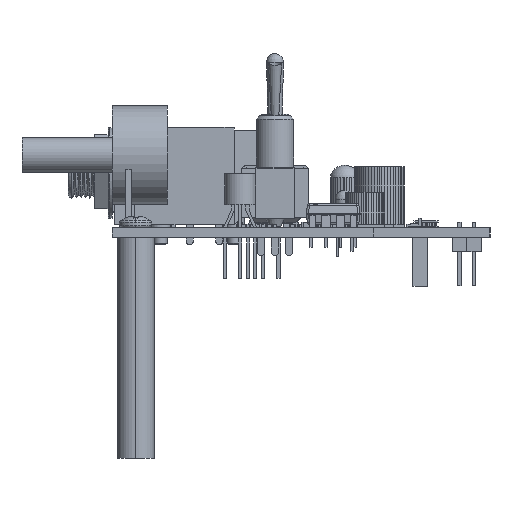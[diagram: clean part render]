
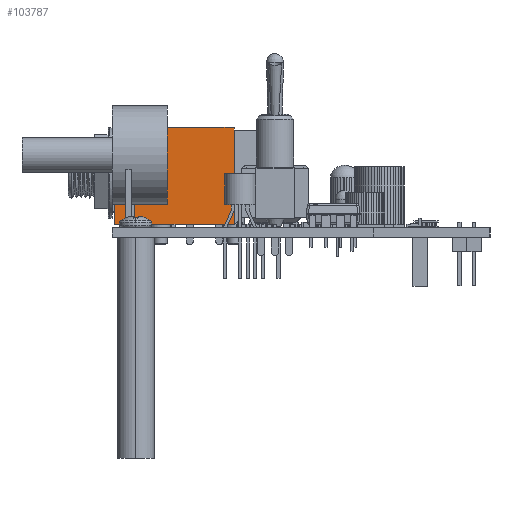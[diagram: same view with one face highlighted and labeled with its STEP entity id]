
A CAD part, front view. The second image highlights one B-rep face of the part: STEP entity #103787.
In plain terms, the highlighted planar face has unit normal (0, -1, 0).
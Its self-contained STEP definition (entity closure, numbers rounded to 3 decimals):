
#100980 = PLANE('',#100981);
#100981 = AXIS2_PLACEMENT_3D('',#100982,#100983,#100984);
#100982 = CARTESIAN_POINT('',(0.,0.,0.632));
#100983 = DIRECTION('',(0.,0.,1.));
#100984 = DIRECTION('',(1.,0.,0.));
#102193 = VERTEX_POINT('',#102194);
#102194 = CARTESIAN_POINT('',(10.312,-7.874,0.632));
#102220 = EDGE_CURVE('',#102221,#102193,#102223,.T.);
#102221 = VERTEX_POINT('',#102222);
#102222 = CARTESIAN_POINT('',(-10.312,-7.874,0.632));
#102223 = SURFACE_CURVE('',#102224,(#102228,#102235),.PCURVE_S1.);
#102224 = LINE('',#102225,#102226);
#102225 = CARTESIAN_POINT('',(-10.312,-7.874,0.632));
#102226 = VECTOR('',#102227,1.);
#102227 = DIRECTION('',(1.,0.,0.));
#102228 = PCURVE('',#100980,#102229);
#102229 = DEFINITIONAL_REPRESENTATION('',(#102230),#102234);
#102230 = LINE('',#102231,#102232);
#102231 = CARTESIAN_POINT('',(-10.312,-7.874));
#102232 = VECTOR('',#102233,1.);
#102233 = DIRECTION('',(1.,0.));
#102234 = ( GEOMETRIC_REPRESENTATION_CONTEXT(2) 
PARAMETRIC_REPRESENTATION_CONTEXT() REPRESENTATION_CONTEXT('2D SPACE',''
  ) );
#102235 = PCURVE('',#102236,#102241);
#102236 = PLANE('',#102237);
#102237 = AXIS2_PLACEMENT_3D('',#102238,#102239,#102240);
#102238 = CARTESIAN_POINT('',(0.,-7.874,0.632));
#102239 = DIRECTION('',(0.,-1.,0.));
#102240 = DIRECTION('',(0.,0.,-1.));
#102241 = DEFINITIONAL_REPRESENTATION('',(#102242),#102246);
#102242 = LINE('',#102243,#102244);
#102243 = CARTESIAN_POINT('',(0.,-10.312));
#102244 = VECTOR('',#102245,1.);
#102245 = DIRECTION('',(0.,1.));
#102246 = ( GEOMETRIC_REPRESENTATION_CONTEXT(2) 
PARAMETRIC_REPRESENTATION_CONTEXT() REPRESENTATION_CONTEXT('2D SPACE',''
  ) );
#102264 = PLANE('',#102265);
#102265 = AXIS2_PLACEMENT_3D('',#102266,#102267,#102268);
#102266 = CARTESIAN_POINT('',(-10.312,0.,0.632));
#102267 = DIRECTION('',(-1.,0.,0.));
#102268 = DIRECTION('',(0.,0.,-1.));
#103622 = PLANE('',#103623);
#103623 = AXIS2_PLACEMENT_3D('',#103624,#103625,#103626);
#103624 = CARTESIAN_POINT('',(12.294,-5.893,4.671));
#103625 = DIRECTION('',(0.707,-0.707,
    0.));
#103626 = DIRECTION('',(-0.707,-0.707,0.));
#103641 = VERTEX_POINT('',#103642);
#103642 = CARTESIAN_POINT('',(10.312,-7.874,16.786));
#103663 = EDGE_CURVE('',#103641,#102193,#103664,.T.);
#103664 = SURFACE_CURVE('',#103665,(#103669,#103676),.PCURVE_S1.);
#103665 = LINE('',#103666,#103667);
#103666 = CARTESIAN_POINT('',(10.312,-7.874,4.671));
#103667 = VECTOR('',#103668,1.);
#103668 = DIRECTION('',(0.,0.,-1.));
#103669 = PCURVE('',#103622,#103670);
#103670 = DEFINITIONAL_REPRESENTATION('',(#103671),#103675);
#103671 = LINE('',#103672,#103673);
#103672 = CARTESIAN_POINT('',(2.802,0.));
#103673 = VECTOR('',#103674,1.);
#103674 = DIRECTION('',(0.,1.));
#103675 = ( GEOMETRIC_REPRESENTATION_CONTEXT(2) 
PARAMETRIC_REPRESENTATION_CONTEXT() REPRESENTATION_CONTEXT('2D SPACE',''
  ) );
#103676 = PCURVE('',#102236,#103677);
#103677 = DEFINITIONAL_REPRESENTATION('',(#103678),#103682);
#103678 = LINE('',#103679,#103680);
#103679 = CARTESIAN_POINT('',(-4.039,10.312));
#103680 = VECTOR('',#103681,1.);
#103681 = DIRECTION('',(1.,0.));
#103682 = ( GEOMETRIC_REPRESENTATION_CONTEXT(2) 
PARAMETRIC_REPRESENTATION_CONTEXT() REPRESENTATION_CONTEXT('2D SPACE',''
  ) );
#103750 = PLANE('',#103751);
#103751 = AXIS2_PLACEMENT_3D('',#103752,#103753,#103754);
#103752 = CARTESIAN_POINT('',(0.,0.,17.272));
#103753 = DIRECTION('',(0.,0.,1.));
#103754 = DIRECTION('',(1.,0.,0.));
#103776 = PLANE('',#103777);
#103777 = AXIS2_PLACEMENT_3D('',#103778,#103779,#103780);
#103778 = CARTESIAN_POINT('',(10.312,0.,0.632));
#103779 = DIRECTION('',(1.,0.,0.));
#103780 = DIRECTION('',(0.,0.,1.));
#103787 = ADVANCED_FACE('',(#103788),#102236,.T.);
#103788 = FACE_BOUND('',#103789,.T.);
#103789 = EDGE_LOOP('',(#103790,#103791,#103814,#103837,#103858));
#103790 = ORIENTED_EDGE('',*,*,#103663,.F.);
#103791 = ORIENTED_EDGE('',*,*,#103792,.T.);
#103792 = EDGE_CURVE('',#103641,#103793,#103795,.T.);
#103793 = VERTEX_POINT('',#103794);
#103794 = CARTESIAN_POINT('',(10.312,-7.874,17.272));
#103795 = SURFACE_CURVE('',#103796,(#103800,#103807),.PCURVE_S1.);
#103796 = LINE('',#103797,#103798);
#103797 = CARTESIAN_POINT('',(10.312,-7.874,0.632));
#103798 = VECTOR('',#103799,1.);
#103799 = DIRECTION('',(0.,0.,1.));
#103800 = PCURVE('',#102236,#103801);
#103801 = DEFINITIONAL_REPRESENTATION('',(#103802),#103806);
#103802 = LINE('',#103803,#103804);
#103803 = CARTESIAN_POINT('',(0.,10.312));
#103804 = VECTOR('',#103805,1.);
#103805 = DIRECTION('',(-1.,0.));
#103806 = ( GEOMETRIC_REPRESENTATION_CONTEXT(2) 
PARAMETRIC_REPRESENTATION_CONTEXT() REPRESENTATION_CONTEXT('2D SPACE',''
  ) );
#103807 = PCURVE('',#103776,#103808);
#103808 = DEFINITIONAL_REPRESENTATION('',(#103809),#103813);
#103809 = LINE('',#103810,#103811);
#103810 = CARTESIAN_POINT('',(0.,7.874));
#103811 = VECTOR('',#103812,1.);
#103812 = DIRECTION('',(1.,0.));
#103813 = ( GEOMETRIC_REPRESENTATION_CONTEXT(2) 
PARAMETRIC_REPRESENTATION_CONTEXT() REPRESENTATION_CONTEXT('2D SPACE',''
  ) );
#103814 = ORIENTED_EDGE('',*,*,#103815,.T.);
#103815 = EDGE_CURVE('',#103793,#103816,#103818,.T.);
#103816 = VERTEX_POINT('',#103817);
#103817 = CARTESIAN_POINT('',(-10.312,-7.874,17.272));
#103818 = SURFACE_CURVE('',#103819,(#103823,#103830),.PCURVE_S1.);
#103819 = LINE('',#103820,#103821);
#103820 = CARTESIAN_POINT('',(0.,-7.874,17.272));
#103821 = VECTOR('',#103822,1.);
#103822 = DIRECTION('',(-1.,0.,0.));
#103823 = PCURVE('',#102236,#103824);
#103824 = DEFINITIONAL_REPRESENTATION('',(#103825),#103829);
#103825 = LINE('',#103826,#103827);
#103826 = CARTESIAN_POINT('',(-16.64,0.));
#103827 = VECTOR('',#103828,1.);
#103828 = DIRECTION('',(0.,-1.));
#103829 = ( GEOMETRIC_REPRESENTATION_CONTEXT(2) 
PARAMETRIC_REPRESENTATION_CONTEXT() REPRESENTATION_CONTEXT('2D SPACE',''
  ) );
#103830 = PCURVE('',#103750,#103831);
#103831 = DEFINITIONAL_REPRESENTATION('',(#103832),#103836);
#103832 = LINE('',#103833,#103834);
#103833 = CARTESIAN_POINT('',(0.,-7.874));
#103834 = VECTOR('',#103835,1.);
#103835 = DIRECTION('',(-1.,0.));
#103836 = ( GEOMETRIC_REPRESENTATION_CONTEXT(2) 
PARAMETRIC_REPRESENTATION_CONTEXT() REPRESENTATION_CONTEXT('2D SPACE',''
  ) );
#103837 = ORIENTED_EDGE('',*,*,#103838,.F.);
#103838 = EDGE_CURVE('',#102221,#103816,#103839,.T.);
#103839 = SURFACE_CURVE('',#103840,(#103844,#103851),.PCURVE_S1.);
#103840 = LINE('',#103841,#103842);
#103841 = CARTESIAN_POINT('',(-10.312,-7.874,0.632));
#103842 = VECTOR('',#103843,1.);
#103843 = DIRECTION('',(0.,0.,1.));
#103844 = PCURVE('',#102236,#103845);
#103845 = DEFINITIONAL_REPRESENTATION('',(#103846),#103850);
#103846 = LINE('',#103847,#103848);
#103847 = CARTESIAN_POINT('',(0.,-10.312));
#103848 = VECTOR('',#103849,1.);
#103849 = DIRECTION('',(-1.,0.));
#103850 = ( GEOMETRIC_REPRESENTATION_CONTEXT(2) 
PARAMETRIC_REPRESENTATION_CONTEXT() REPRESENTATION_CONTEXT('2D SPACE',''
  ) );
#103851 = PCURVE('',#102264,#103852);
#103852 = DEFINITIONAL_REPRESENTATION('',(#103853),#103857);
#103853 = LINE('',#103854,#103855);
#103854 = CARTESIAN_POINT('',(0.,7.874));
#103855 = VECTOR('',#103856,1.);
#103856 = DIRECTION('',(-1.,0.));
#103857 = ( GEOMETRIC_REPRESENTATION_CONTEXT(2) 
PARAMETRIC_REPRESENTATION_CONTEXT() REPRESENTATION_CONTEXT('2D SPACE',''
  ) );
#103858 = ORIENTED_EDGE('',*,*,#102220,.T.);
